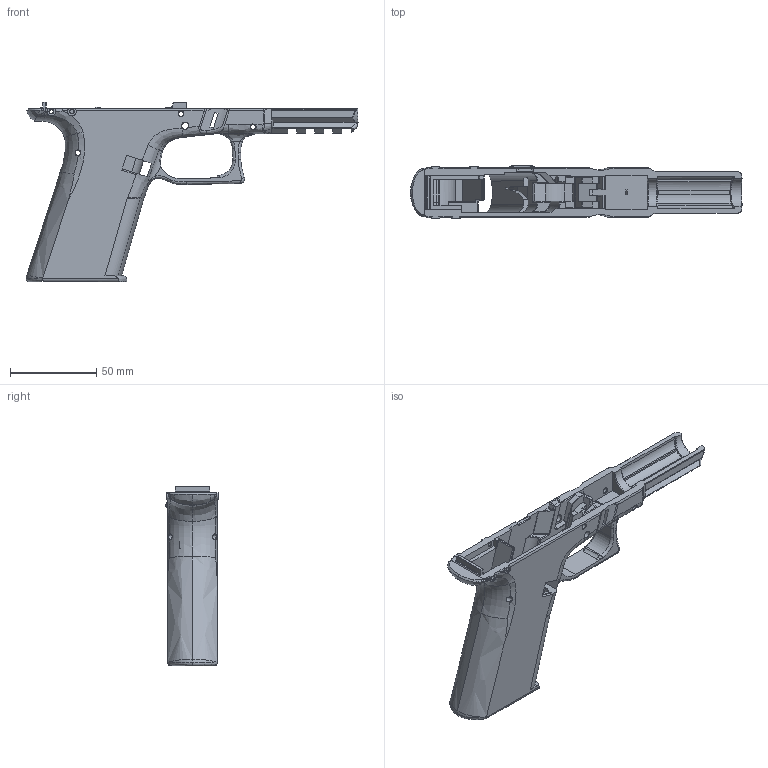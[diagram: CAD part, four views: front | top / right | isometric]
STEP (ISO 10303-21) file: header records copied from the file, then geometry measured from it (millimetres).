
FILE_DESCRIPTION(/* description */ (''),/* implementation_level */ '2;1');
FILE_NAME(/* name */ 'G:/Developer/Repos/F17_FMDA_Vinh/f17_vinh_plain_v1.step',/* time_stamp */ '2020-04-10T04:54:09-04:00',/* author */ (''),/* organization */ (''),/* preprocessor_version */ 'ST-DEVELOPER v18',/* originating_system */ 'Autodesk Translation Framework v8.12.0.6',/* authorisation */ '');
FILE_SCHEMA (('AUTOMOTIVE_DESIGN { 1 0 10303 214 3 1 1 }'));
Products named in the file (2): f17_plainjane; mod10
Assembly tree (1 placements, depth 2):
  f17_plainjane
    mod10
Bounding box: 192.62 x 30.42 x 104.43 mm (x, y, z)
Volume: 79603 mm3; surface area: 49191.4 mm2
Topology: 1 solids, 1 shells, 774 faces, 2227 edges, 1423 vertices
Faces by surface type: bspline 283, plane 268, cylinder 164, cone 34, torus 17, sphere 8
Full cylindrical faces by diameter (mm): 2.25 x4, 2.3 x4, 3 x6, 4 x2
Entity records: 60945 total; most frequent: CARTESIAN_POINT 42608, ORIENTED_EDGE 4420, DIRECTION 3053, EDGE_CURVE 2210, VERTEX_POINT 1423, AXIS2_PLACEMENT_3D 1072, LINE 909, VECTOR 909
